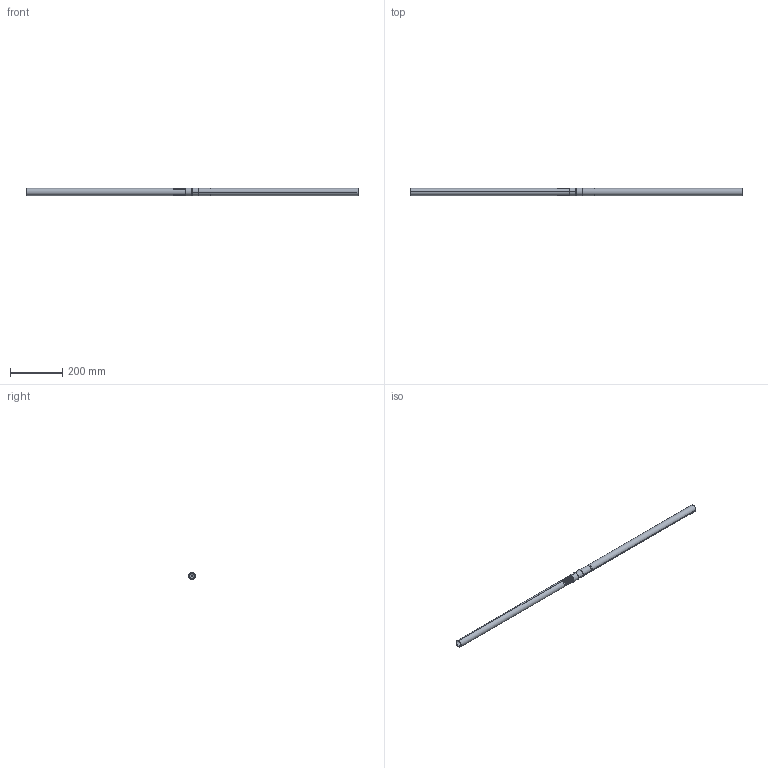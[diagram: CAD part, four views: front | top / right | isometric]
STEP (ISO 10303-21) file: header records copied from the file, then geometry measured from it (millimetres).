
FILE_DESCRIPTION (( 'STEP AP214' ), '1' );
FILE_NAME ('Threaded End Connector to Threaded End Connector Connection.STEP', '2013-08-19T17:05:47', ( 'ydmin' ), ( 'Microsoft' ), 'SwSTEP 2.0', 'SolidWorks 2013', '' );
FILE_SCHEMA (( 'AUTOMOTIVE_DESIGN' ));
Length unit declared in the file: inch
Products named in the file (7): Threaded End; DRP-002-0518-00; Flat End; 91990A255 (1)_91990A255; DRP-002-0513-00_FLAT END WITH THREADED HOLE; 6.000 Inch Tube; Threaded End Connector to Threaded End Connector Connection
Assembly tree (7 placements, depth 3):
  Threaded End Connector to Threaded End Connector Connection
    Flat End
      6.000 Inch Tube
      DRP-002-0513-00_FLAT END WITH THREADED HOLE
      91990A255 (1)_91990A255
    Threaded End
      6.000 Inch Tube
      DRP-002-0518-00
Bounding box: 1270 x 28.57 x 28.57 mm (x, y, z)
Volume: 151510.8 mm3; surface area: 227896.6 mm2
Topology: 7 solids, 7 shells, 487 faces, 1204 edges, 731 vertices
Faces by surface type: cylinder 218, plane 128, cone 113, bspline 16, torus 10, sphere 2
Entity records: 25117 total; most frequent: CARTESIAN_POINT 10552, DIRECTION 2388, ORIENTED_EDGE 2380, EDGE_CURVE 1190, AXIS2_PLACEMENT_3D 869, VERTEX_POINT 723, LINE 650, VECTOR 650
